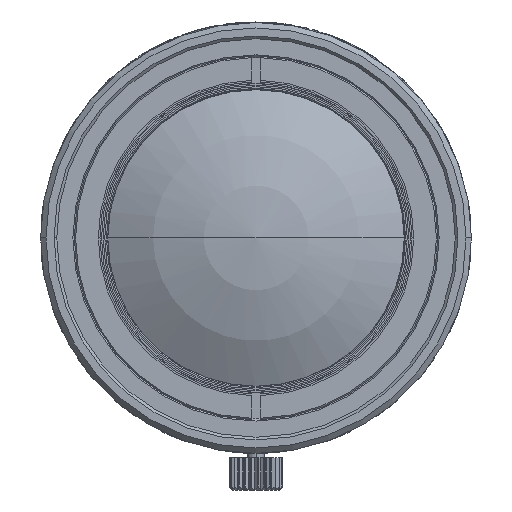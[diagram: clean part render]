
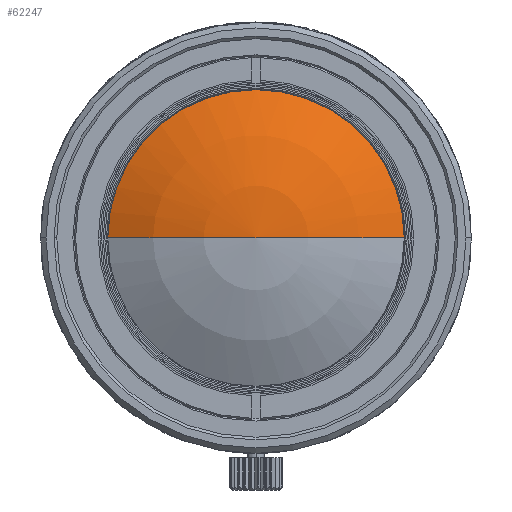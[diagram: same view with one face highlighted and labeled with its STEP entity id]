
A CAD part, left-side view. The second image highlights one B-rep face of the part: STEP entity #62247.
In plain terms, the highlighted spherical face has radius 27.897 mm.
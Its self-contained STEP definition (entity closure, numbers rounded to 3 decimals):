
#21755=CARTESIAN_POINT('',(-7.966,0.,0.));
#21756=DIRECTION('',(0.,0.,1.));
#21757=DIRECTION('',(-1.,0.,0.));
#21758=AXIS2_PLACEMENT_3D('',#21755,#21756,#21757);
#21760=CARTESIAN_POINT('',(-32.111,0.,0.));
#21761=DIRECTION('',(1.,0.,0.));
#21762=DIRECTION('',(0.,1.,0.));
#21763=AXIS2_PLACEMENT_3D('',#21760,#21761,#21762);
#21765=CARTESIAN_POINT('',(-7.966,0.,0.));
#21766=DIRECTION('',(0.,0.,-1.));
#21767=DIRECTION('',(-1.,0.,0.));
#21768=AXIS2_PLACEMENT_3D('',#21765,#21766,#21767);
#26587=CARTESIAN_POINT('',(-32.111,13.974,0.));
#26588=CARTESIAN_POINT('',(-32.111,-13.974,0.));
#26589=VERTEX_POINT('',#26587);
#26590=VERTEX_POINT('',#26588);
#26621=CARTESIAN_POINT('',(-35.863,0.,0.));
#26622=VERTEX_POINT('',#26621);
#62237=CARTESIAN_POINT('',(-7.966,0.,0.));
#62238=DIRECTION('',(1.,0.,0.));
#62239=DIRECTION('',(0.,-1.,0.));
#62240=AXIS2_PLACEMENT_3D('',#62237,#62238,#62239);
#62241=SPHERICAL_SURFACE('',#62240,27.897);
#62242=ORIENTED_EDGE('',*,*,#62197,.T.);
#62243=ORIENTED_EDGE('',*,*,#62225,.F.);
#62244=ORIENTED_EDGE('',*,*,#62223,.T.);
#62245=EDGE_LOOP('',(#62242,#62243,#62244));
#62246=FACE_OUTER_BOUND('',#62245,.F.);
#21759=CIRCLE('',#21758,27.897);
#21764=CIRCLE('',#21763,13.974);
#21769=CIRCLE('',#21768,27.897);
#62197=EDGE_CURVE('',#26589,#26590,#21764,.T.);
#62223=EDGE_CURVE('',#26622,#26589,#21769,.T.);
#62225=EDGE_CURVE('',#26622,#26590,#21759,.T.);
#62247=ADVANCED_FACE('',(#62246),#62241,.T.);
